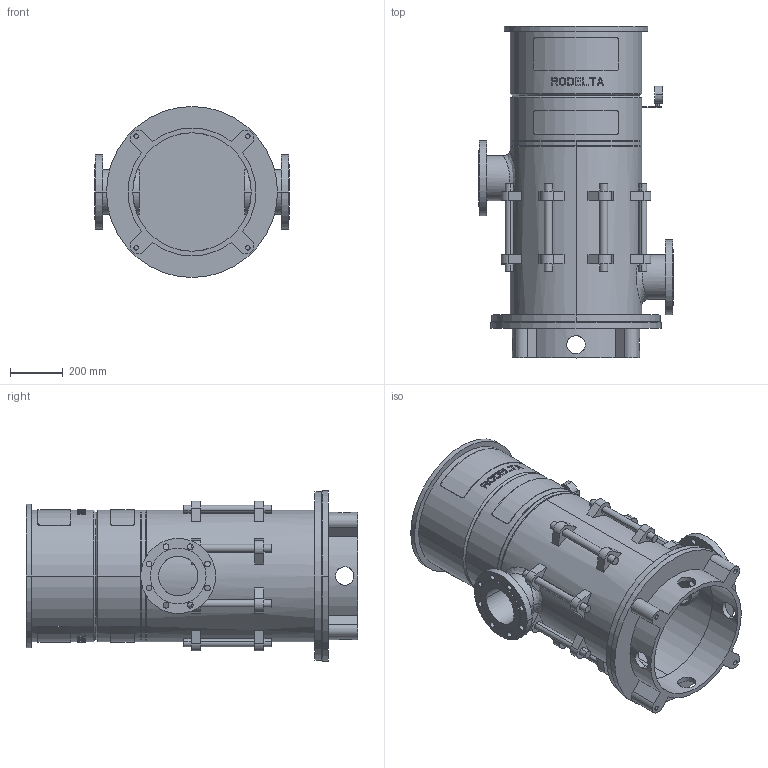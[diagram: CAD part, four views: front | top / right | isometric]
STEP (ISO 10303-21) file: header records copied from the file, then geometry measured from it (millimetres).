
FILE_DESCRIPTION((''),'2;1');
FILE_NAME('LS6_2TR_0GR_ABOVE_30KW','2023-08-15T',('Lyritlocal'),(''),'PRO/ENGINEER BY PARAMETRIC TECHNOLOGY CORPORATION, 2016360','PRO/ENGINEER BY PARAMETRIC TECHNOLOGY CORPORATION, 2016360','');
FILE_SCHEMA(('CONFIG_CONTROL_DESIGN'));
Length unit declared in the file: millimetre
Products named in the file (1): LS6_2TR_0GR_ABOVE_30KW
Bounding box: 740 x 1261 x 650 mm (x, y, z)
Volume: 44515243.5 mm3; surface area: 5930606 mm2
Topology: 3 solids, 7 shells, 684 faces, 1767 edges, 1174 vertices
Faces by surface type: plane 422, cylinder 242, cone 12, bspline 8
Entity records: 22574 total; most frequent: CARTESIAN_POINT 5962, ORIENTED_EDGE 3518, DIRECTION 3273, EDGE_CURVE 1767, AXIS2_PLACEMENT_3D 1237, VERTEX_POINT 1174, EDGE_LOOP 829, VECTOR 799
